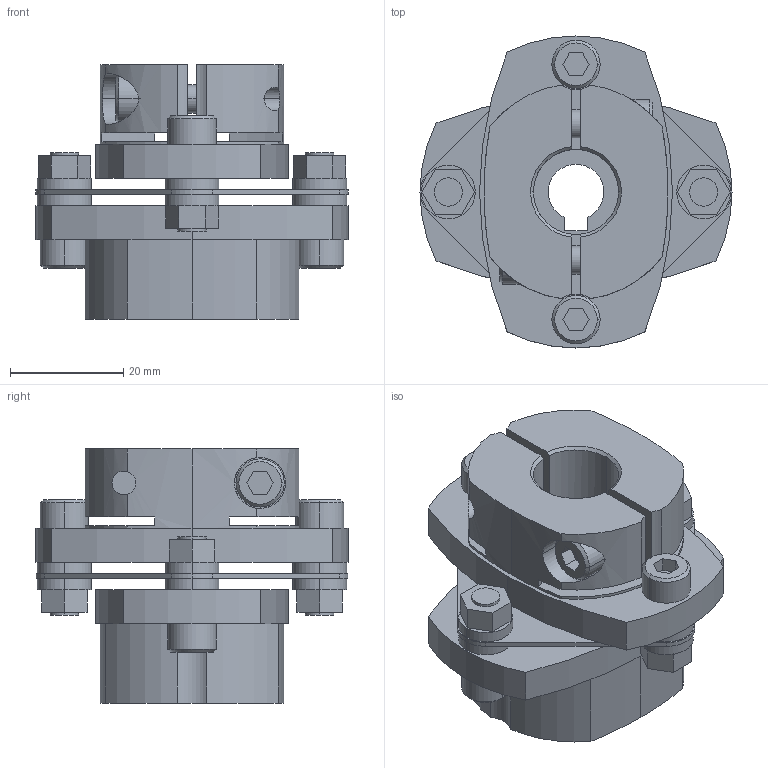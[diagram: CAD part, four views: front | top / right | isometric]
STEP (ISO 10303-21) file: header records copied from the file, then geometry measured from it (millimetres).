
FILE_DESCRIPTION((''),'2;1');
FILE_NAME('LCS-55M-11L亊15B.stp','2015-10-27T19:10:08',(''),(''),'AutoCAD STEP 2000i','AutoCAD 2000i',', , ');
FILE_SCHEMA(('CONFIG_CONTROL_DESIGN'));
Length unit declared in the file: millimetre
Products named in the file (6): LCS-55M-11L×10B; 忣兜1; LC55M-L011; LC55-B010-1; LC55-B010; LCS55-ITA
Assembly tree (6 placements, depth 2):
  LCS-55M-11L×10B
    忣兜1
    LC55M-L011  x2
    LC55-B010-1
    LC55-B010
    LCS55-ITA
Bounding box: 55 x 55 x 44.8 mm (x, y, z)
Volume: 44826.1 mm3; surface area: 19138.5 mm2
Topology: 1 solids, 1 shells, 240 faces, 608 edges, 400 vertices
Faces by surface type: plane 115, cylinder 104, cone 21
Entity records: 7727 total; most frequent: CARTESIAN_POINT 1547, DIRECTION 1320, ORIENTED_EDGE 1216, EDGE_CURVE 608, AXIS2_PLACEMENT_3D 487, VERTEX_POINT 400, VECTOR 346, LINE 346
